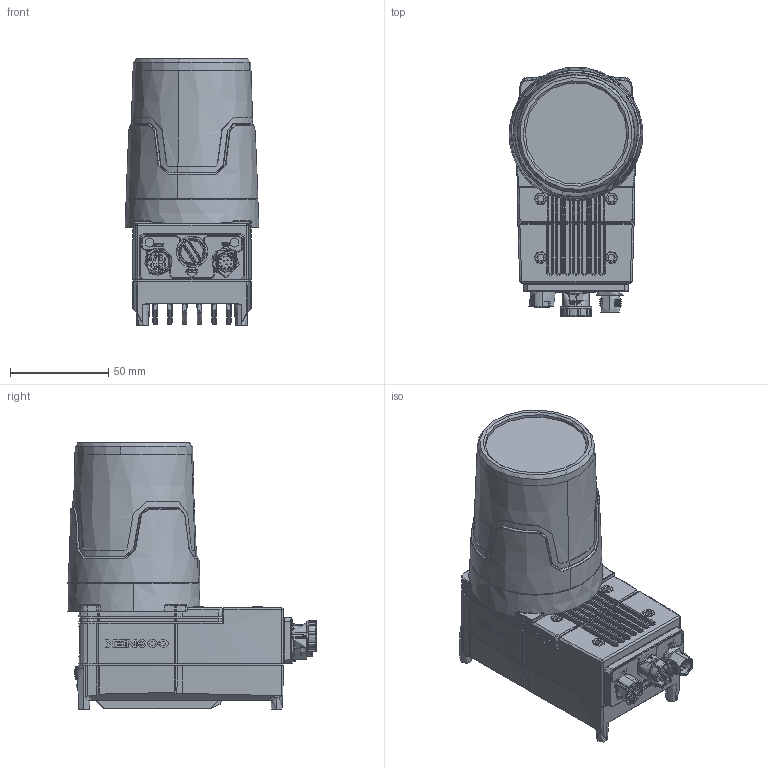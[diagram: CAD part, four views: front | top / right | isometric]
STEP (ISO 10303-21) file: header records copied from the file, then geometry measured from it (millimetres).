
FILE_DESCRIPTION (( 'STEP AP214' ), '1' );
FILE_NAME ('IS019-05_7-10-19.STEP', '2019-07-12T17:10:37', ( '' ), ( '' ), 'SwSTEP 2.0', 'SolidWorks 2018', '' );
FILE_SCHEMA (( 'AUTOMOTIVE_DESIGN' ));
Length unit declared in the file: millimetre
Products named in the file (1): IS019-05_7-10-19
Bounding box: 68.03 x 126.6 x 135.75 mm (x, y, z)
Volume: 323913.5 mm3; surface area: 124738.9 mm2
Topology: 8 solids, 61 shells, 7324 faces, 19046 edges, 11993 vertices
Faces by surface type: plane 2464, cylinder 1905, bspline 1729, cone 753, torus 378, sphere 95
Entity records: 374178 total; most frequent: CARTESIAN_POINT 152044, ORIENTED_EDGE 37804, DIRECTION 29329, EDGE_CURVE 18902, VERTEX_POINT 11989, AXIS2_PLACEMENT_3D 10596, LINE 8137, VECTOR 8137
